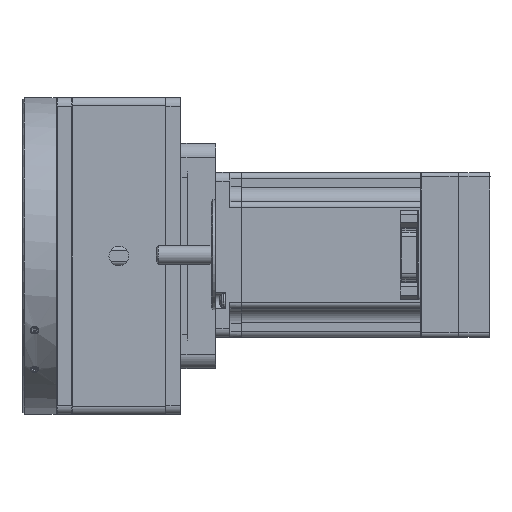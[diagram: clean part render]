
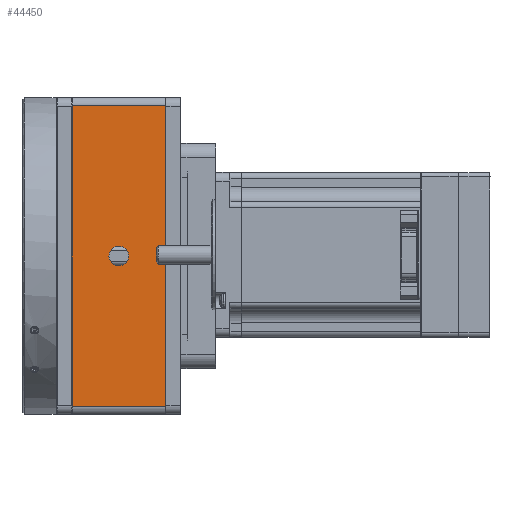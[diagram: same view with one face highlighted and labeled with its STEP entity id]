
A CAD part, left-side view. The second image highlights one B-rep face of the part: STEP entity #44450.
In plain terms, the highlighted planar face has unit normal (-1, 0, 0).
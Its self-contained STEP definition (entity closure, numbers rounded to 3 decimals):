
#1009 = LINE ( 'NONE', #64717, #41202 ) ;
#3223 = CARTESIAN_POINT ( 'NONE',  ( -143., 5.4, -55. ) ) ;
#5332 = CARTESIAN_POINT ( 'NONE',  ( -143., 37.6, -52. ) ) ;
#6421 = CARTESIAN_POINT ( 'NONE',  ( -143., 37.6, 52. ) ) ;
#7991 = DIRECTION ( 'NONE',  ( 0., 0., 1. ) ) ;
#8123 = EDGE_CURVE ( 'NONE', #46621, #19412, #1009, .T. ) ;
#9932 = CARTESIAN_POINT ( 'NONE',  ( -143., 37.6, -55. ) ) ;
#15629 = EDGE_LOOP ( 'NONE', ( #17031, #43136, #35753, #72356 ) ) ;
#16029 = CIRCLE ( 'NONE', #41888, 3.4 ) ;
#16487 = AXIS2_PLACEMENT_3D ( 'NONE', #52070, #63220, #33878 ) ;
#17031 = ORIENTED_EDGE ( 'NONE', *, *, #37124, .F. ) ;
#18987 = CARTESIAN_POINT ( 'NONE',  ( -143., 5.4, 52. ) ) ;
#19412 = VERTEX_POINT ( 'NONE', #6421 ) ;
#19954 = CARTESIAN_POINT ( 'NONE',  ( -143., 21.5, 0. ) ) ;
#21893 = ORIENTED_EDGE ( 'NONE', *, *, #67493, .F. ) ;
#22111 = VECTOR ( 'NONE', #31929, 1000. ) ;
#24272 = VERTEX_POINT ( 'NONE', #35833 ) ;
#24855 = CARTESIAN_POINT ( 'NONE',  ( -143., 5.4, -52. ) ) ;
#25778 = LINE ( 'NONE', #9932, #22111 ) ;
#26602 = FACE_OUTER_BOUND ( 'NONE', #15629, .T. ) ;
#31837 = DIRECTION ( 'NONE',  ( 0., 0., -1. ) ) ;
#31929 = DIRECTION ( 'NONE',  ( 0., 0., 1. ) ) ;
#32523 = EDGE_CURVE ( 'NONE', #74097, #70337, #54415, .T. ) ;
#33878 = DIRECTION ( 'NONE',  ( 0., 0., -1. ) ) ;
#35746 = VECTOR ( 'NONE', #31837, 1000. ) ;
#35753 = ORIENTED_EDGE ( 'NONE', *, *, #36881, .F. ) ;
#35833 = CARTESIAN_POINT ( 'NONE',  ( -143., 21.5, 3.4 ) ) ;
#36881 = EDGE_CURVE ( 'NONE', #74097, #19412, #25778, .T. ) ;
#37124 = EDGE_CURVE ( 'NONE', #46621, #70337, #61209, .T. ) ;
#41202 = VECTOR ( 'NONE', #72104, 1000. ) ;
#41888 = AXIS2_PLACEMENT_3D ( 'NONE', #19954, #61279, #7991 ) ;
#43136 = ORIENTED_EDGE ( 'NONE', *, *, #8123, .T. ) ;
#43709 = VECTOR ( 'NONE', #44290, 1000. ) ;
#44290 = DIRECTION ( 'NONE',  ( 0., -1., 0. ) ) ;
#44450 = ADVANCED_FACE ( 'NONE', ( #61372, #26602 ), #60612, .F. ) ;
#46621 = VERTEX_POINT ( 'NONE', #18987 ) ;
#52070 = CARTESIAN_POINT ( 'NONE',  ( -143., 43., -55. ) ) ;
#54415 = LINE ( 'NONE', #72165, #43709 ) ;
#60612 = PLANE ( 'NONE',  #16487 ) ;
#61209 = LINE ( 'NONE', #3223, #35746 ) ;
#61279 = DIRECTION ( 'NONE',  ( -1., 0., 0. ) ) ;
#61372 = FACE_BOUND ( 'NONE', #70722, .T. ) ;
#63220 = DIRECTION ( 'NONE',  ( 1., 0., 0. ) ) ;
#64717 = CARTESIAN_POINT ( 'NONE',  ( -143., 43., 52. ) ) ;
#67493 = EDGE_CURVE ( 'NONE', #24272, #24272, #16029, .T. ) ;
#70337 = VERTEX_POINT ( 'NONE', #24855 ) ;
#70722 = EDGE_LOOP ( 'NONE', ( #21893 ) ) ;
#72104 = DIRECTION ( 'NONE',  ( 0., 1., 0. ) ) ;
#72165 = CARTESIAN_POINT ( 'NONE',  ( -143., 43., -52. ) ) ;
#72356 = ORIENTED_EDGE ( 'NONE', *, *, #32523, .T. ) ;
#74097 = VERTEX_POINT ( 'NONE', #5332 ) ;
